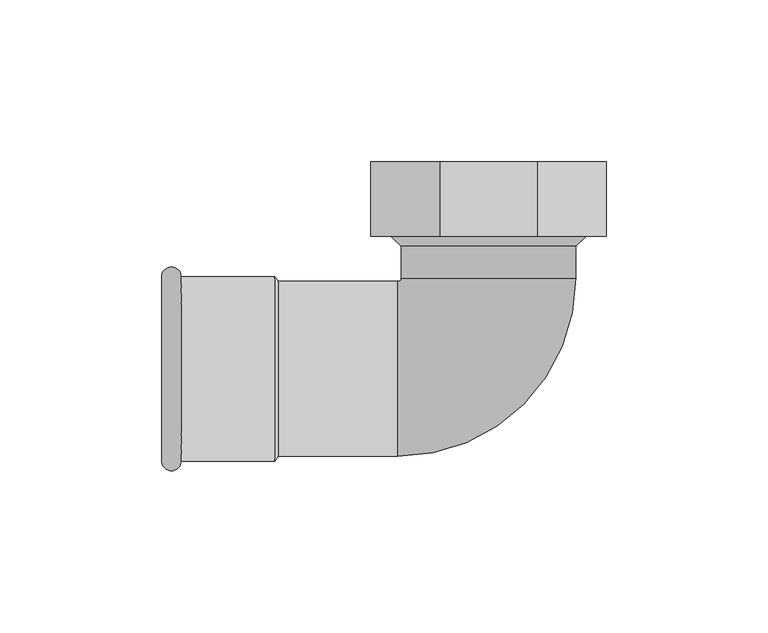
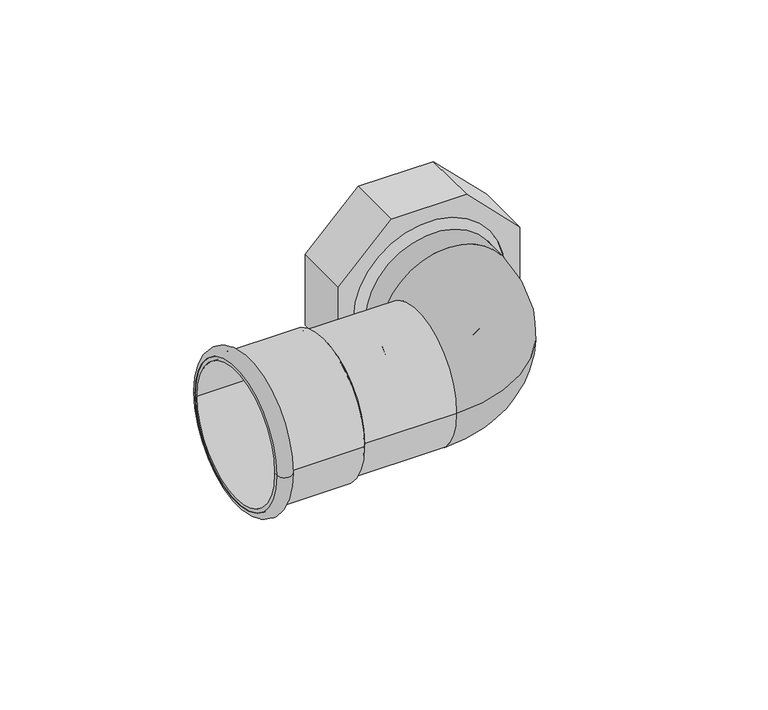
"""IFC4 building model written with IfcOpenShell, lengths in millimetres: pipe fitting geometry."""

from ifc_helpers import new_model, si_unit, point, frame, origin, place, context, project, spatial, polyline, circle_curve, ellipse_curve, trimmed, source, transform, mapped, element, save
from ifc_brep_helpers import plane_surface, cylinder_surface, revolved_surface, advanced_brep


def pipe_fitting_23f2ed73(model_context):
    return source(origin(), model_context, "Body", "AdvancedBrep", [
        advanced_brep(
        [(-36.3942695, 64.0, 15.075), (-15.075, 64.0, 36.3942695), (15.075, 64.0, 36.3942695), (36.3942695, 64.0, 15.075), (36.3942695, 64.0, -15.075), (15.075, 64.0, -36.3942695), (-15.075, 64.0, -36.3942695), (-36.3942695, 64.0, -15.075), (30.15, 64.0, 0.0), (-30.15, 64.0, 0.0), (-36.3942695, 41.0, 15.075), (-36.3942695, 41.0, -15.075), (-15.075, 41.0, -36.3942695), (15.075, 41.0, -36.3942695), (36.3942695, 41.0, -15.075), (36.3942695, 41.0, 15.075), (15.075, 41.0, 36.3942695), (-15.075, 41.0, 36.3942695), (30.1788231, 41.0, 0.0), (-30.1788231, 41.0, 0.0), (30.15, 41.0, 0.0), (-30.15, 41.0, 0.0), (27.1788231, 41.0, 0.0), (-27.1788231, 41.0, 0.0), (27.1788231, 38.0, 0.0), (-27.1788231, 38.0, 0.0)],
        [
            (0, 1),
            (1, 2),
            (2, 3),
            (3, 4),
            (4, 5),
            (5, 6),
            (6, 7),
            (7, 0),
            (8, 9, circle_curve(frame((0.0, 64.0, 0.0), z_axis=(0.0, -1.0, 0.0), x_axis=(-1.0000000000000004, 0.0, 0.0)), 30.15)),
            (9, 8, circle_curve(frame((0.0, 64.0, 0.0), z_axis=(0.0, -1.0, 0.0), x_axis=(-1.0000000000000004, 0.0, 0.0)), 30.15)),
            (10, 11),
            (11, 12),
            (12, 13),
            (13, 14),
            (14, 15),
            (15, 16),
            (16, 17),
            (17, 10),
            (18, 19, circle_curve(frame((0.0, 41.0, 0.0), z_axis=(0.0, 1.0, 0.0), x_axis=(-1.0000000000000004, 0.0, 0.0)), 30.1788231)),
            (19, 18, circle_curve(frame((0.0, 41.0, 0.0), z_axis=(0.0, 1.0, 0.0), x_axis=(1.0000000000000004, 0.0, 0.0)), 30.1788231)),
            (8, 20),
            (20, 21, circle_curve(frame((0.0, 41.0, 0.0), z_axis=(0.0, -1.0, 0.0), x_axis=(-1.0000000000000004, 0.0, 0.0)), 30.15)),
            (21, 9),
            (21, 20, circle_curve(frame((0.0, 41.0, 0.0), z_axis=(0.0, -1.0, 0.0), x_axis=(-1.0000000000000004, 0.0, 0.0)), 30.15)),
            (0, 10),
            (17, 1),
            (16, 2),
            (15, 3),
            (14, 4),
            (13, 5),
            (12, 6),
            (11, 7),
            (22, 23, circle_curve(frame((0.0, 41.0, 0.0), z_axis=(0.0, -1.0, 0.0), x_axis=(1.0000000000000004, 0.0, 0.0)), 27.1788231)),
            (23, 22, circle_curve(frame((0.0, 41.0, 0.0), z_axis=(0.0, -1.0, 0.0), x_axis=(-1.0000000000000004, 0.0, 0.0)), 27.1788231)),
            (24, 25, circle_curve(frame((0.0, 38.0, 0.0), z_axis=(0.0, 1.0, 0.0), x_axis=(-1.0000000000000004, 0.0, 0.0)), 27.1788231)),
            (25, 19),
            (18, 24),
            (23, 25),
            (24, 22),
            (25, 24, circle_curve(frame((0.0, 38.0, 0.0), z_axis=(0.0, 1.0, 0.0), x_axis=(1.0000000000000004, 0.0, 0.0)), 27.1788231)),
        ],
        [
            plane_surface(frame((-30.15, 64.0, 0.0), z_axis=(0.0, 1.0, 0.0), x_axis=(0.0, 0.0, -1.0))),
            plane_surface(frame((-30.15, 41.0, 0.0), z_axis=(0.0, -1.0, 0.0), x_axis=(0.0, 0.0, 1.0))),
            revolved_surface(polyline([(-30.150000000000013, 41.0, 0.0), (-30.150000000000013, 64.00000000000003, 0.0)]), (0.0, 41.0, 0.0), (0.0, -1.0000000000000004, 0.0)),
            plane_surface(frame((-36.3942695, 64.0, 15.075), z_axis=(-0.707106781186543, 0.0, 0.7071067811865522), x_axis=(0.0, -1.0, 0.0))),
            plane_surface(frame((-15.075, 64.0, 36.3942695), z_axis=(0.0, 0.0, 1.0), x_axis=(0.0, -1.0, 0.0))),
            plane_surface(frame((15.075, 64.0, 36.3942695), z_axis=(0.7071067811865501, 0.0, 0.707106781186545), x_axis=(0.0, -1.0, 0.0))),
            plane_surface(frame((36.3942695, 64.0, 15.075), z_axis=(1.0, 0.0, 0.0), x_axis=(0.0, -1.0, 0.0))),
            plane_surface(frame((36.3942695, 64.0, -15.075), z_axis=(0.7071067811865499, 0.0, -0.7071067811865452), x_axis=(0.0, -1.0, 0.0))),
            plane_surface(frame((15.075, 64.0, -36.3942695), z_axis=(0.0, 0.0, -1.0), x_axis=(0.0, -1.0, 0.0))),
            plane_surface(frame((-15.075, 64.0, -36.3942695), z_axis=(-0.7071067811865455, 0.0, -0.7071067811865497), x_axis=(0.0, -1.0, 0.0))),
            plane_surface(frame((-36.3942695, 64.0, -15.075), z_axis=(-1.0, 0.0, 0.0), x_axis=(0.0, -1.0, 0.0))),
            plane_surface(frame((0.0, 41.0, 0.0), z_axis=(0.0, 1.0, 0.0), x_axis=(1.0, 0.0, 0.0))),
            revolved_surface(polyline([(-30.1788231, 41.0, 0.0), (-27.1788231, 38.0, 0.0)]), (0.0, 41.0, 0.0), (0.0, -1.0000000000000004, 0.0)),
            revolved_surface(polyline([(-27.17882310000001, 38.0, 0.0), (-27.17882310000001, 41.0, 0.0)]), (0.0, 41.0, 0.0), (0.0, -1.0000000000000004, 0.0)),
            revolved_surface(polyline([(30.1788231, 41.0, 0.0), (27.1788231, 38.0, 0.0)]), (0.0, 41.0, 0.0), (0.0, -1.0000000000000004, 0.0)),
            revolved_surface(polyline([(27.17882310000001, 38.0, 0.0), (27.17882310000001, 41.0, 0.0)]), (0.0, 41.0, 0.0), (0.0, -1.0000000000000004, 0.0)),
        ],
        [
            (0, [[1, 2, 3, 4, 5, 6, 7, 8], [9, 10]]),
            (1, [[11, 12, 13, 14, 15, 16, 17, 18], [19, 20]]),
            (2, [[-9, 21, 22, 23]]),
            (2, [[-10, -23, 24, -21]]),
            (3, [[-1, 25, -18, 26]]),
            (4, [[-2, -26, -17, 27]]),
            (5, [[-3, -27, -16, 28]]),
            (6, [[-4, -28, -15, 29]]),
            (7, [[-5, -29, -14, 30]]),
            (8, [[-6, -30, -13, 31]]),
            (9, [[-7, -31, -12, 32]]),
            (10, [[-8, -32, -11, -25]]),
            (11, [[-22, -24], [33, 34]]),
            (12, [[35, 36, -19, 37]]),
            (13, [[-34, 38, -35, 39]]),
            (14, [[-36, 40, -37, -20]]),
            (15, [[-33, -39, -40, -38]]),
        ],
    ),
        advanced_brep(
        [(-101.0, 28.5, 0.0), (-101.0, -28.5, 0.0), (-94.9987073, -28.5, 0.0), (-94.9987073, 28.5, 0.0)],
        [
            (0, 1, circle_curve(frame((-101.0, 0.0, 0.0), z_axis=(-1.0, 0.0, 0.0), x_axis=(0.0, -1.0000000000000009, 0.0)), 28.5)),
            (1, 2),
            (2, 3, circle_curve(frame((-94.9987073, 0.0, 0.0), z_axis=(1.0, 0.0, 0.0), x_axis=(0.0, -1.0000000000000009, 0.0)), 28.5)),
            (3, 0),
            (1, 0, circle_curve(frame((-101.0, 0.0, 0.0), z_axis=(-1.0, 0.0, 0.0), x_axis=(0.0, -1.0000000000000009, 0.0)), 28.5)),
            (3, 2, circle_curve(frame((-94.9987073, 0.0, 0.0), z_axis=(1.0, 0.0, 0.0), x_axis=(0.0, -1.0000000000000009, 0.0)), 28.5)),
            (2, 1, circle_curve(frame((-97.9993536, -28.5, 0.0), z_axis=(0.0, 0.0, -1.0000000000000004), x_axis=(-1.0000000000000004, 0.0, 0.0)), 3.0006464)),
            (0, 3, circle_curve(frame((-97.9993536, 28.5, 0.0), z_axis=(0.0, 0.0, -1.0000000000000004), x_axis=(-1.0000000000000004, 0.0, 0.0)), 3.0006464)),
        ],
        [
            revolved_surface(polyline([(-94.99870730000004, -28.500000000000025, 0.0), (-101.00000000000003, -28.500000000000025, 0.0)]), (-66.0, 0.0, 0.0), (1.0000000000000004, 0.0, 0.0)),
            revolved_surface(trimmed(ellipse_curve(frame((-97.9993536, -28.5, 0.0), z_axis=(0.0, 0.0, 1.0000000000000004), x_axis=(-1.0000000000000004, 0.0, 0.0)), 3.0006464, 3.0006464), [point((-101.0, -28.5, 0.0))], [point((-94.9987073, -28.5, 0.0))], True, "CARTESIAN"), (-66.0, 0.0, 0.0), (1.0000000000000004, 0.0, 0.0)),
        ],
        [
            (0, [[1, 2, 3, 4]]),
            (0, [[5, -4, 6, -2]]),
            (1, [[-3, 7, -1, 8]]),
            (1, [[-6, -8, -5, -7]]),
        ],
    ),
        advanced_brep(
        [(-101.0, 27.0, 0.0), (-101.0, -27.0, 0.0), (-65.0, -27.0, 0.0), (-65.0, 27.0, 0.0), (-101.0, 28.5, 0.0), (-101.0, -28.5, 0.0), (-66.0, 28.5, 0.0), (-66.0, -28.5, 0.0)],
        [
            (0, 1, circle_curve(frame((-101.0, 0.0, 0.0), z_axis=(-1.0, 0.0, 0.0), x_axis=(0.0, -1.0000000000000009, 0.0)), 27.0)),
            (1, 2),
            (2, 3, circle_curve(frame((-65.0, 0.0, 0.0), z_axis=(1.0, 0.0, 0.0), x_axis=(0.0, -1.0000000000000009, 0.0)), 27.0)),
            (3, 0),
            (1, 0, circle_curve(frame((-101.0, 0.0, 0.0), z_axis=(-1.0, 0.0, 0.0), x_axis=(0.0, -1.0000000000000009, 0.0)), 27.0)),
            (3, 2, circle_curve(frame((-65.0, 0.0, 0.0), z_axis=(1.0, 0.0, 0.0), x_axis=(0.0, -1.0000000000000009, 0.0)), 27.0)),
            (4, 5, circle_curve(frame((-101.0, 0.0, 0.0), z_axis=(-1.0, 0.0, 0.0), x_axis=(0.0, -1.0000000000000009, 0.0)), 28.5)),
            (5, 1),
            (0, 4),
            (5, 4, circle_curve(frame((-101.0, 0.0, 0.0), z_axis=(-1.0, 0.0, 0.0), x_axis=(0.0, -1.0000000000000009, 0.0)), 28.5)),
            (6, 7, circle_curve(frame((-66.0, 0.0, 0.0), z_axis=(-1.0, 0.0, 0.0), x_axis=(0.0, -1.0000000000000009, 0.0)), 28.5)),
            (7, 5),
            (4, 6),
            (7, 6, circle_curve(frame((-66.0, 0.0, 0.0), z_axis=(-1.0, 0.0, 0.0), x_axis=(0.0, -1.0000000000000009, 0.0)), 28.5)),
            (2, 7),
            (6, 3),
        ],
        [
            revolved_surface(polyline([(-65.0, -27.000000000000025, 0.0), (-101.00000000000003, -27.000000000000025, 0.0)]), (-66.0, 0.0, 0.0), (1.0000000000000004, 0.0, 0.0)),
            plane_surface(frame((-101.0, 0.0, 0.0), z_axis=(-1.0, 0.0, 0.0), x_axis=(0.0, -1.0, 0.0))),
            cylinder_surface(frame((-66.0, 0.0, 0.0), z_axis=(1.0000000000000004, 0.0, 0.0), x_axis=(0.0, -1.0000000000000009, 0.0)), 28.5),
            revolved_surface(polyline([(-66.0, -28.5, 0.0), (-65.0, -27.0, 0.0)]), (-66.0, 0.0, 0.0), (1.0000000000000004, 0.0, 0.0)),
        ],
        [
            (0, [[1, 2, 3, 4]]),
            (0, [[5, -4, 6, -2]]),
            (1, [[7, 8, -1, 9]]),
            (1, [[10, -9, -5, -8]]),
            (2, [[11, 12, -7, 13]]),
            (2, [[14, -13, -10, -12]]),
            (3, [[-3, 15, -11, 16]]),
            (3, [[-6, -16, -14, -15]]),
        ],
    ),
        advanced_brep(
        [(-27.0, 64.0, 0.0), (27.0, 64.0, 0.0), (-27.0, 28.0, 0.0), (27.0, 28.0, 0.0), (-28.0, -27.0, 0.0), (-28.0, 27.0, 0.0), (-66.0, 27.0, 0.0), (-66.0, -27.0, 0.0)],
        [
            (0, 1, circle_curve(frame((0.0, 64.0, 0.0), z_axis=(0.0, 1.0, 0.0), x_axis=(1.0, 0.0, 0.0)), 27.0)),
            (1, 0, circle_curve(frame((0.0, 64.0, 0.0), z_axis=(0.0, 1.0, 0.0), x_axis=(1.0, 0.0, 0.0)), 27.0)),
            (0, 2),
            (2, 3, circle_curve(frame((0.0, 28.0, 0.0), z_axis=(0.0, 1.0, 0.0), x_axis=(1.0, 0.0, 0.0)), 27.0)),
            (3, 1),
            (3, 2, circle_curve(frame((0.0, 28.0, 0.0), z_axis=(0.0, 1.0, 0.0), x_axis=(1.0, 0.0, 0.0)), 27.0)),
            (4, 3, circle_curve(frame((-28.0, 28.0, 0.0), z_axis=(0.0, 0.0, 1.0), x_axis=(1.0, 0.0, 0.0)), 55.0)),
            (2, 5, circle_curve(frame((-28.0, 28.0, 0.0), z_axis=(0.0, 0.0, -1.0), x_axis=(1.0, 0.0, 0.0)), 1.0)),
            (5, 4, circle_curve(frame((-28.0, 0.0, 0.0), z_axis=(1.0, 0.0, 0.0), x_axis=(0.0, -1.0, 0.0)), 27.0)),
            (4, 5, circle_curve(frame((-28.0, 0.0, 0.0), z_axis=(1.0, 0.0, 0.0), x_axis=(0.0, -1.0, 0.0)), 27.0)),
            (6, 7, circle_curve(frame((-66.0, 0.0, 0.0), z_axis=(-1.0, 0.0, 0.0), x_axis=(0.0, -1.0, 0.0)), 27.0)),
            (7, 6, circle_curve(frame((-66.0, 0.0, 0.0), z_axis=(-1.0, 0.0, 0.0), x_axis=(0.0, -1.0, 0.0)), 27.0)),
            (5, 6),
            (7, 4),
        ],
        [
            plane_surface(frame((0.0, 64.0, 0.0), z_axis=(0.0, 1.0, 0.0), x_axis=(0.0, 0.0, 1.0))),
            cylinder_surface(frame((0.0, 64.0, 0.0), z_axis=(0.0, 1.0, 0.0), x_axis=(1.0, 0.0, 0.0)), 27.0),
            revolved_surface(trimmed(ellipse_curve(frame((0.0, 28.0, 0.0), z_axis=(0.0, 1.0, 0.0), x_axis=(1.0, 0.0, 0.0)), 27.0, 27.0), [point((-27.0, 28.0, 0.0))], [point((27.0, 28.0, 0.0))], True, "CARTESIAN"), (-28.0, 28.0, 0.0), (0.0, 0.0, -1.0)),
            revolved_surface(trimmed(ellipse_curve(frame((0.0, 28.0, 0.0), z_axis=(0.0, 1.0, 0.0), x_axis=(1.0, 0.0, 0.0)), 27.0, 27.0), [point((27.0, 28.0, 0.0))], [point((-27.0, 28.0, 0.0))], True, "CARTESIAN"), (-28.0, 28.0, 0.0), (0.0, 0.0, -1.0)),
            plane_surface(frame((-66.0, 0.0, 0.0), z_axis=(-1.0, 0.0, 0.0), x_axis=(0.0, 0.0, 1.0))),
            cylinder_surface(frame((-28.0, 0.0, 0.0), z_axis=(1.0, 0.0, 0.0), x_axis=(0.0, -1.0, 0.0)), 27.0),
        ],
        [
            (0, [[1, 2]]),
            (1, [[-1, 3, 4, 5]]),
            (1, [[-2, -5, 6, -3]]),
            (2, [[7, -4, 8, 9]]),
            (3, [[-8, -6, -7, 10]]),
            (4, [[11, 12]]),
            (5, [[-9, 13, -12, 14]]),
            (5, [[-10, -14, -11, -13]]),
        ],
    ),
    ])


if __name__ == "__main__":
    model = new_model("IFC4")
    model_context = context("Model", 3, world=origin())
    ifc_project = project(units=[si_unit("LENGTHUNIT", "METRE", prefix="MILLI")], contexts=[model_context])
    site = spatial("IfcSite", under=ifc_project)
    building = spatial("IfcBuilding", under=site)
    placement = place(None, origin())
    pipe_fitting_shape = pipe_fitting_23f2ed73(model_context)
    element("IfcPipeFitting", 1, ObjectType="NLRS_50_PIF_UN_Mapress koper haakse 3-d overgangskoppeling 90° met binnendraad_geb : DN12-50-Rp2\" / d15-54-Rp2\"", at=placement, inside=building, context=model_context, shape_type="MappedRepresentation", body=[
        mapped(pipe_fitting_shape, transform((0.0, 0.0, 0.0), x_axis=(1.0, 0.0, 0.0), y_axis=(0.0, 1.0, 0.0), z_axis=(0.0, 0.0, 1.0))),
    ])
    save(model, "model.ifc")
